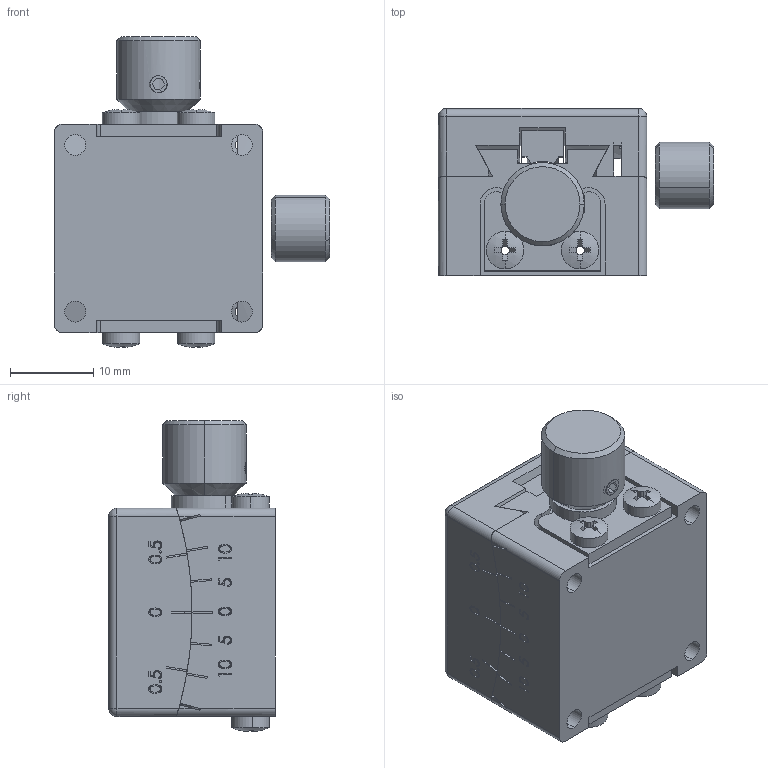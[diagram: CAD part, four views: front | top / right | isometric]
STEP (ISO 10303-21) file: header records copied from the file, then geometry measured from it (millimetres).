
FILE_DESCRIPTION (( 'STEP AP203' ), '1' );
FILE_NAME ('7SGM0215褒弇怢.STEP', '2019-10-08T05:36:48', ( '' ), ( '' ), 'SwSTEP 2.0', 'SolidWorks 2014', '' );
FILE_SCHEMA (( 'CONFIG_CONTROL_DESIGN' ));
Length unit declared in the file: millimetre
Products named in the file (1): 7SGM0215褒弇怢
Bounding box: 33.02 x 20 x 37.28 mm (x, y, z)
Surface area: 7157.3 mm2 (no closed solid volume)
Topology: 0 solids, 20 shells, 474 faces, 1446 edges, 971 vertices
Faces by surface type: plane 202, cylinder 138, bspline 94, cone 26, sphere 12, torus 2
Entity records: 23329 total; most frequent: CARTESIAN_POINT 11006, ORIENTED_EDGE 2554, DIRECTION 2305, EDGE_CURVE 1440, VERTEX_POINT 971, AXIS2_PLACEMENT_3D 800, LINE 705, VECTOR 705
